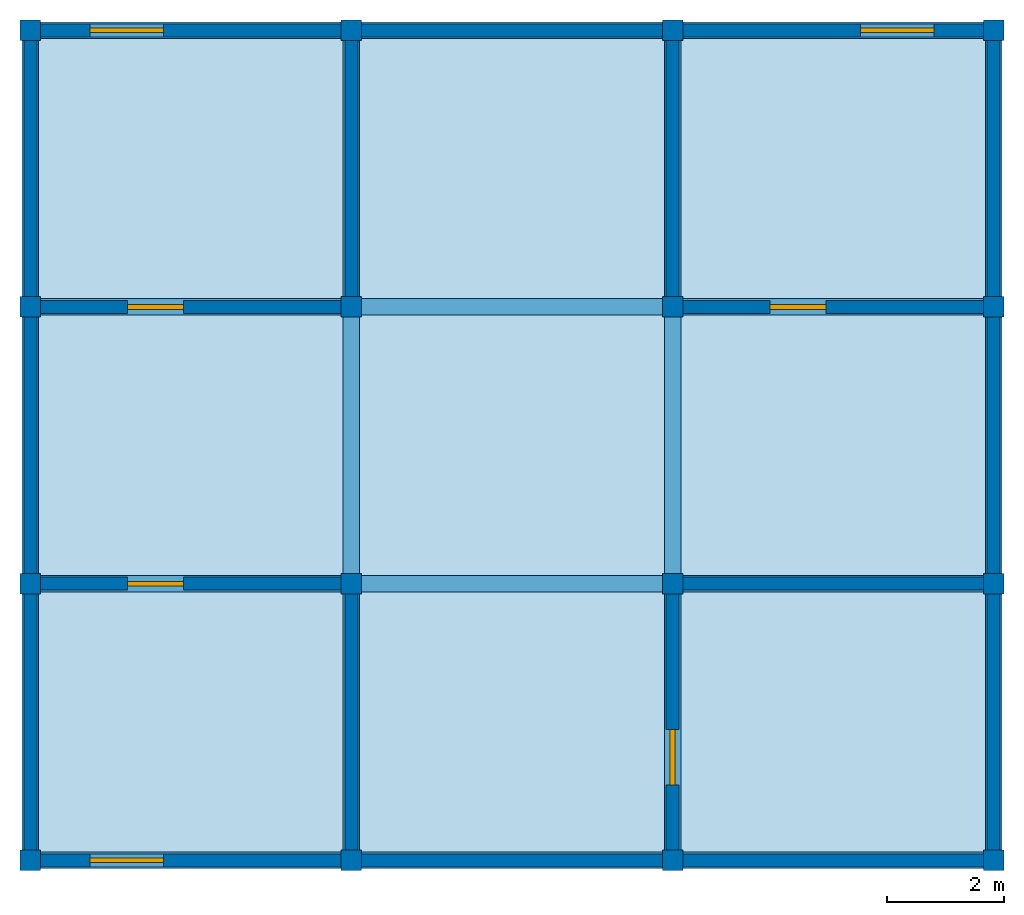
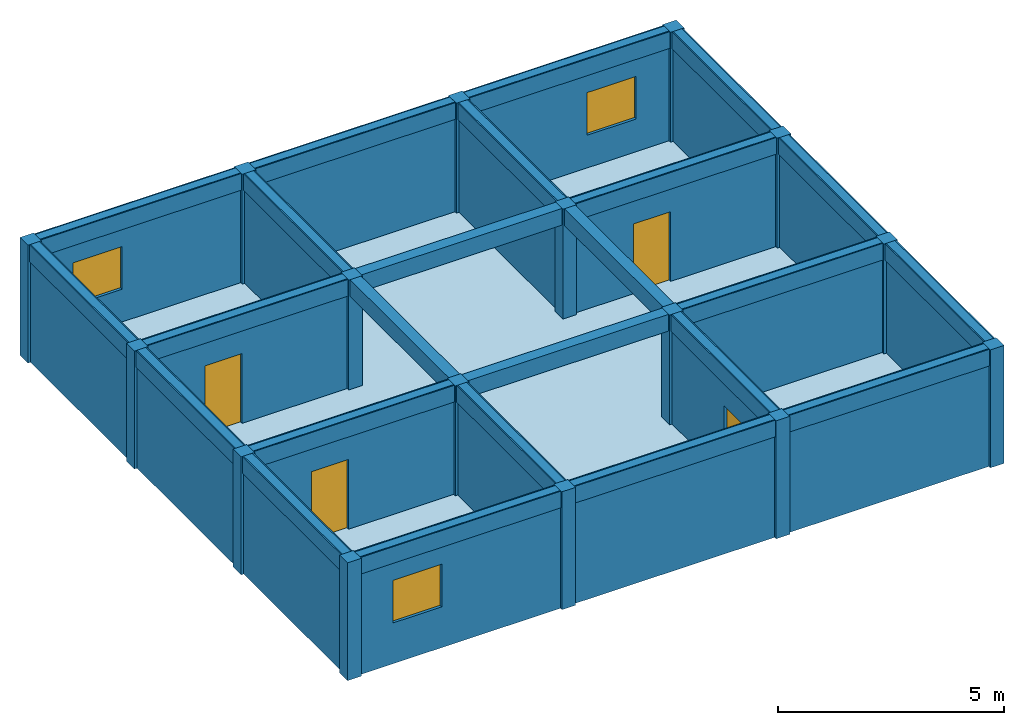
# One storey: 24 beams, 20 walls, 16 columns, 4 doors, 3 windows, 1 slab, 7 openings.
"""IFC4X3 building model written with IfcOpenShell, lengths in metres."""

from ifc_helpers import new_model, si_unit, frame, origin_with_axes, origin_2d, place, context, project, spatial, rectangle, extrude, material, element, fill, save


model = new_model("IFC4X3")

# Units and contexts
model_context = context("Model", 3, precision=1e-05, world=origin_with_axes())
ifc_project = project(units=[si_unit("LENGTHUNIT", "METRE"), si_unit("AREAUNIT", "SQUARE_METRE"), si_unit("VOLUMEUNIT", "CUBIC_METRE")], contexts=[model_context])

# Site, building, storey
site = spatial("IfcSite", under=ifc_project, Name="Antofagasta Parcel", CompositionType="ELEMENT")
building = spatial("IfcBuilding", under=site, Name="Nexo Block", CompositionType="ELEMENT")
storey = spatial("IfcBuildingStorey", under=building, Name="Level 3", CompositionType="ELEMENT", Elevation=6.36)

# Columns
ifc_material_1 = material(Name="Concrete")
column_1_placement = place(None, frame((-8.2, -7.065, 6.362), z_axis=(0.0, 0.0, 1.0), x_axis=(1.0, 0.0, 0.0)))
element("IfcColumn", 1, at=column_1_placement, inside=storey, material=ifc_material_1, Name="Column 3.1", ObjectType="Core Column", PredefinedType="NOTDEFINED", context=model_context, shape_type="SweptSolid", body=[
    extrude(rectangle(XDim=0.35, YDim=0.35, at=origin_2d()), origin_with_axes(), (0.0, 0.0, 1.0), 3.181),
])
column_2_placement = place(None, frame((-8.2, -2.355, 6.362), z_axis=(0.0, 0.0, 1.0), x_axis=(1.0, 0.0, 0.0)))
element("IfcColumn", 2, at=column_2_placement, inside=storey, material=ifc_material_1, Name="Column 3.2", ObjectType="Core Column", PredefinedType="COLUMN", context=model_context, shape_type="SweptSolid", body=[
    extrude(rectangle(XDim=0.35, YDim=0.35, at=origin_2d()), origin_with_axes(), (0.0, 0.0, 1.0), 3.181),
])
column_3_placement = place(None, frame((-8.2, 2.355, 6.362), z_axis=(0.0, 0.0, 1.0), x_axis=(1.0, 0.0, 0.0)))
element("IfcColumn", 3, at=column_3_placement, inside=storey, material=ifc_material_1, Name="Column 3.3", ObjectType="Facade Column", PredefinedType="PILASTER", context=model_context, shape_type="SweptSolid", body=[
    extrude(rectangle(XDim=0.35, YDim=0.35, at=origin_2d()), origin_with_axes(), (0.0, 0.0, 1.0), 3.181),
])
column_4_placement = place(None, frame((-8.2, 7.065, 6.362), z_axis=(0.0, 0.0, 1.0), x_axis=(1.0, 0.0, 0.0)))
element("IfcColumn", 4, at=column_4_placement, inside=storey, material=ifc_material_1, Name="Column 3.4", ObjectType="Core Column", PredefinedType="PILASTER", context=model_context, shape_type="SweptSolid", body=[
    extrude(rectangle(XDim=0.35, YDim=0.35, at=origin_2d()), origin_with_axes(), (0.0, 0.0, 1.0), 3.181),
])
column_5_placement = place(None, frame((-2.733, -7.065, 6.362), z_axis=(0.0, 0.0, 1.0), x_axis=(1.0, 0.0, 0.0)))
element("IfcColumn", 5, at=column_5_placement, inside=storey, material=ifc_material_1, Name="Column 3.5", ObjectType="Corner Column", PredefinedType="COLUMN", context=model_context, shape_type="SweptSolid", body=[
    extrude(rectangle(XDim=0.35, YDim=0.35, at=origin_2d()), origin_with_axes(), (0.0, 0.0, 1.0), 3.181),
])
column_6_placement = place(None, frame((-2.733, -2.355, 6.362), z_axis=(0.0, 0.0, 1.0), x_axis=(1.0, 0.0, 0.0)))
element("IfcColumn", 6, at=column_6_placement, inside=storey, material=ifc_material_1, Name="Column 3.6", ObjectType="Core Column", PredefinedType="COLUMN", context=model_context, shape_type="SweptSolid", body=[
    extrude(rectangle(XDim=0.35, YDim=0.35, at=origin_2d()), origin_with_axes(), (0.0, 0.0, 1.0), 3.181),
])
column_7_placement = place(None, frame((-2.733, 2.355, 6.362), z_axis=(0.0, 0.0, 1.0), x_axis=(1.0, 0.0, 0.0)))
element("IfcColumn", 7, at=column_7_placement, inside=storey, material=ifc_material_1, Name="Column 3.7", ObjectType="Structural Column", PredefinedType="USERDEFINED", context=model_context, shape_type="SweptSolid", body=[
    extrude(rectangle(XDim=0.35, YDim=0.35, at=origin_2d()), origin_with_axes(), (0.0, 0.0, 1.0), 3.181),
])
column_8_placement = place(None, frame((-2.733, 7.065, 6.362), z_axis=(0.0, 0.0, 1.0), x_axis=(1.0, 0.0, 0.0)))
element("IfcColumn", 8, at=column_8_placement, inside=storey, material=ifc_material_1, Name="Column 3.8", ObjectType="Structural Column", PredefinedType="PILASTER", context=model_context, shape_type="SweptSolid", body=[
    extrude(rectangle(XDim=0.35, YDim=0.35, at=origin_2d()), origin_with_axes(), (0.0, 0.0, 1.0), 3.181),
])
column_9_placement = place(None, frame((2.734, -7.065, 6.362), z_axis=(0.0, 0.0, 1.0), x_axis=(1.0, 0.0, 0.0)))
element("IfcColumn", 9, at=column_9_placement, inside=storey, material=ifc_material_1, Name="Column 3.9", ObjectType="Corner Column", PredefinedType="NOTDEFINED", context=model_context, shape_type="SweptSolid", body=[
    extrude(rectangle(XDim=0.35, YDim=0.35, at=origin_2d()), origin_with_axes(), (0.0, 0.0, 1.0), 3.181),
])
column_10_placement = place(None, frame((2.734, -2.355, 6.362), z_axis=(0.0, 0.0, 1.0), x_axis=(1.0, 0.0, 0.0)))
element("IfcColumn", 10, at=column_10_placement, inside=storey, material=ifc_material_1, Name="Column 3.10", ObjectType="Corner Column", PredefinedType="COLUMN", context=model_context, shape_type="SweptSolid", body=[
    extrude(rectangle(XDim=0.35, YDim=0.35, at=origin_2d()), origin_with_axes(), (0.0, 0.0, 1.0), 3.181),
])
column_11_placement = place(None, frame((2.734, 2.355, 6.362), z_axis=(0.0, 0.0, 1.0), x_axis=(1.0, 0.0, 0.0)))
element("IfcColumn", 11, at=column_11_placement, inside=storey, material=ifc_material_1, Name="Column 3.11", ObjectType="Core Column", PredefinedType="PILASTER", context=model_context, shape_type="SweptSolid", body=[
    extrude(rectangle(XDim=0.35, YDim=0.35, at=origin_2d()), origin_with_axes(), (0.0, 0.0, 1.0), 3.181),
])
column_12_placement = place(None, frame((2.734, 7.065, 6.362), z_axis=(0.0, 0.0, 1.0), x_axis=(1.0, 0.0, 0.0)))
element("IfcColumn", 12, at=column_12_placement, inside=storey, material=ifc_material_1, Name="Column 3.12", ObjectType="Facade Column", PredefinedType="NOTDEFINED", context=model_context, shape_type="SweptSolid", body=[
    extrude(rectangle(XDim=0.35, YDim=0.35, at=origin_2d()), origin_with_axes(), (0.0, 0.0, 1.0), 3.181),
])
column_13_placement = place(None, frame((8.201, -7.065, 6.362), z_axis=(0.0, 0.0, 1.0), x_axis=(1.0, 0.0, 0.0)))
element("IfcColumn", 13, at=column_13_placement, inside=storey, material=ifc_material_1, Name="Column 3.13", ObjectType="Corner Column", PredefinedType="PILASTER", context=model_context, shape_type="SweptSolid", body=[
    extrude(rectangle(XDim=0.35, YDim=0.35, at=origin_2d()), origin_with_axes(), (0.0, 0.0, 1.0), 3.181),
])
column_14_placement = place(None, frame((8.201, -2.355, 6.362), z_axis=(0.0, 0.0, 1.0), x_axis=(1.0, 0.0, 0.0)))
element("IfcColumn", 14, at=column_14_placement, inside=storey, material=ifc_material_1, Name="Column 3.14", ObjectType="Corner Column", PredefinedType="COLUMN", context=model_context, shape_type="SweptSolid", body=[
    extrude(rectangle(XDim=0.35, YDim=0.35, at=origin_2d()), origin_with_axes(), (0.0, 0.0, 1.0), 3.181),
])
column_15_placement = place(None, frame((8.201, 2.355, 6.362), z_axis=(0.0, 0.0, 1.0), x_axis=(1.0, 0.0, 0.0)))
element("IfcColumn", 15, at=column_15_placement, inside=storey, material=ifc_material_1, Name="Column 3.15", ObjectType="Facade Column", PredefinedType="USERDEFINED", context=model_context, shape_type="SweptSolid", body=[
    extrude(rectangle(XDim=0.35, YDim=0.35, at=origin_2d()), origin_with_axes(), (0.0, 0.0, 1.0), 3.181),
])
column_16_placement = place(None, frame((8.201, 7.065, 6.362), z_axis=(0.0, 0.0, 1.0), x_axis=(1.0, 0.0, 0.0)))
element("IfcColumn", 16, at=column_16_placement, inside=storey, material=ifc_material_1, Name="Column 3.16", ObjectType="Structural Column", PredefinedType="PILASTER", context=model_context, shape_type="SweptSolid", body=[
    extrude(rectangle(XDim=0.35, YDim=0.35, at=origin_2d()), origin_with_axes(), (0.0, 0.0, 1.0), 3.181),
])

# Beams
beam_1_placement = place(None, frame((-5.466, -7.065, 9.093), z_axis=(0.0, 0.0, 1.0), x_axis=(1.0, 0.0, 0.0)))
element("IfcBeam", 17, at=beam_1_placement, inside=storey, material=ifc_material_1, Name="Beam 3.1", ObjectType="Ridge Beam", PredefinedType="JOIST", context=model_context, shape_type="SweptSolid", body=[
    extrude(rectangle(XDim=5.467, YDim=0.28, at=origin_2d()), origin_with_axes(), (0.0, 0.0, 1.0), 0.45),
])
beam_2_placement = place(None, frame((0.0, -7.065, 9.093), z_axis=(0.0, 0.0, 1.0), x_axis=(1.0, 0.0, 0.0)))
element("IfcBeam", 18, at=beam_2_placement, inside=storey, material=ifc_material_1, Name="Beam 3.2", ObjectType="Ridge Beam", PredefinedType="SPANDREL", context=model_context, shape_type="SweptSolid", body=[
    extrude(rectangle(XDim=5.467, YDim=0.28, at=origin_2d()), origin_with_axes(), (0.0, 0.0, 1.0), 0.45),
])
beam_3_placement = place(None, frame((5.468, -7.065, 9.093), z_axis=(0.0, 0.0, 1.0), x_axis=(1.0, 0.0, 0.0)))
element("IfcBeam", 19, at=beam_3_placement, inside=storey, material=ifc_material_1, Name="Beam 3.3", ObjectType="Transfer Beam", PredefinedType="BEAM", context=model_context, shape_type="SweptSolid", body=[
    extrude(rectangle(XDim=5.467, YDim=0.28, at=origin_2d()), origin_with_axes(), (0.0, 0.0, 1.0), 0.45),
])
beam_4_placement = place(None, frame((-5.466, -2.355, 9.093), z_axis=(0.0, 0.0, 1.0), x_axis=(1.0, 0.0, 0.0)))
element("IfcBeam", 20, at=beam_4_placement, inside=storey, material=ifc_material_1, Name="Beam 3.4", ObjectType="Ridge Beam", PredefinedType="SPANDREL", context=model_context, shape_type="SweptSolid", body=[
    extrude(rectangle(XDim=5.467, YDim=0.28, at=origin_2d()), origin_with_axes(), (0.0, 0.0, 1.0), 0.45),
])
beam_5_placement = place(None, frame((0.0, -2.355, 9.093), z_axis=(0.0, 0.0, 1.0), x_axis=(1.0, 0.0, 0.0)))
element("IfcBeam", 21, at=beam_5_placement, inside=storey, material=ifc_material_1, Name="Beam 3.5", ObjectType="Primary Beam", PredefinedType="NOTDEFINED", context=model_context, shape_type="SweptSolid", body=[
    extrude(rectangle(XDim=5.467, YDim=0.28, at=origin_2d()), origin_with_axes(), (0.0, 0.0, 1.0), 0.45),
])
beam_6_placement = place(None, frame((5.468, -2.355, 9.093), z_axis=(0.0, 0.0, 1.0), x_axis=(1.0, 0.0, 0.0)))
element("IfcBeam", 22, at=beam_6_placement, inside=storey, material=ifc_material_1, Name="Beam 3.6", ObjectType="Ridge Beam", PredefinedType="BEAM", context=model_context, shape_type="SweptSolid", body=[
    extrude(rectangle(XDim=5.467, YDim=0.28, at=origin_2d()), origin_with_axes(), (0.0, 0.0, 1.0), 0.45),
])
beam_7_placement = place(None, frame((-5.466, 2.355, 9.093), z_axis=(0.0, 0.0, 1.0), x_axis=(1.0, 0.0, 0.0)))
element("IfcBeam", 23, at=beam_7_placement, inside=storey, material=ifc_material_1, Name="Beam 3.7", ObjectType="Secondary Beam", PredefinedType="BEAM", context=model_context, shape_type="SweptSolid", body=[
    extrude(rectangle(XDim=5.467, YDim=0.28, at=origin_2d()), origin_with_axes(), (0.0, 0.0, 1.0), 0.45),
])
beam_8_placement = place(None, frame((0.0, 2.355, 9.093), z_axis=(0.0, 0.0, 1.0), x_axis=(1.0, 0.0, 0.0)))
element("IfcBeam", 24, at=beam_8_placement, inside=storey, material=ifc_material_1, Name="Beam 3.8", ObjectType="Primary Beam", PredefinedType="USERDEFINED", context=model_context, shape_type="SweptSolid", body=[
    extrude(rectangle(XDim=5.467, YDim=0.28, at=origin_2d()), origin_with_axes(), (0.0, 0.0, 1.0), 0.45),
])
beam_9_placement = place(None, frame((5.468, 2.355, 9.093), z_axis=(0.0, 0.0, 1.0), x_axis=(1.0, 0.0, 0.0)))
element("IfcBeam", 25, at=beam_9_placement, inside=storey, material=ifc_material_1, Name="Beam 3.9", ObjectType="Secondary Beam", PredefinedType="HOLLOWCORE", context=model_context, shape_type="SweptSolid", body=[
    extrude(rectangle(XDim=5.467, YDim=0.28, at=origin_2d()), origin_with_axes(), (0.0, 0.0, 1.0), 0.45),
])
beam_10_placement = place(None, frame((-5.466, 7.065, 9.093), z_axis=(0.0, 0.0, 1.0), x_axis=(1.0, 0.0, 0.0)))
element("IfcBeam", 26, at=beam_10_placement, inside=storey, material=ifc_material_1, Name="Beam 3.10", ObjectType="Rafter Beam", PredefinedType="USERDEFINED", context=model_context, shape_type="SweptSolid", body=[
    extrude(rectangle(XDim=5.467, YDim=0.28, at=origin_2d()), origin_with_axes(), (0.0, 0.0, 1.0), 0.45),
])
beam_11_placement = place(None, frame((0.0, 7.065, 9.093), z_axis=(0.0, 0.0, 1.0), x_axis=(1.0, 0.0, 0.0)))
element("IfcBeam", 27, at=beam_11_placement, inside=storey, material=ifc_material_1, Name="Beam 3.11", ObjectType="Primary Beam", PredefinedType="BEAM", context=model_context, shape_type="SweptSolid", body=[
    extrude(rectangle(XDim=5.467, YDim=0.28, at=origin_2d()), origin_with_axes(), (0.0, 0.0, 1.0), 0.45),
])
beam_12_placement = place(None, frame((5.468, 7.065, 9.093), z_axis=(0.0, 0.0, 1.0), x_axis=(1.0, 0.0, 0.0)))
element("IfcBeam", 28, at=beam_12_placement, inside=storey, material=ifc_material_1, Name="Beam 3.12", ObjectType="Secondary Beam", PredefinedType="T_BEAM", context=model_context, shape_type="SweptSolid", body=[
    extrude(rectangle(XDim=5.467, YDim=0.28, at=origin_2d()), origin_with_axes(), (0.0, 0.0, 1.0), 0.45),
])
beam_13_placement = place(None, frame((-8.2, -4.71, 9.093), z_axis=(0.0, 0.0, 1.0), x_axis=(0.0, 1.0, 0.0)))
element("IfcBeam", 29, at=beam_13_placement, inside=storey, material=ifc_material_1, Name="Beam 3.13", ObjectType="Ridge Beam", PredefinedType="NOTDEFINED", context=model_context, shape_type="SweptSolid", body=[
    extrude(rectangle(XDim=4.71, YDim=0.28, at=origin_2d()), origin_with_axes(), (0.0, 0.0, 1.0), 0.45),
])
beam_14_placement = place(None, frame((-8.2, 0.0, 9.093), z_axis=(0.0, 0.0, 1.0), x_axis=(0.0, 1.0, 0.0)))
element("IfcBeam", 30, at=beam_14_placement, inside=storey, material=ifc_material_1, Name="Beam 3.14", ObjectType="Rafter Beam", PredefinedType="BEAM", context=model_context, shape_type="SweptSolid", body=[
    extrude(rectangle(XDim=4.71, YDim=0.28, at=origin_2d()), origin_with_axes(), (0.0, 0.0, 1.0), 0.45),
])
beam_15_placement = place(None, frame((-8.2, 4.71, 9.093), z_axis=(0.0, 0.0, 1.0), x_axis=(0.0, 1.0, 0.0)))
element("IfcBeam", 31, at=beam_15_placement, inside=storey, material=ifc_material_1, Name="Beam 3.15", ObjectType="Ridge Beam", PredefinedType="NOTDEFINED", context=model_context, shape_type="SweptSolid", body=[
    extrude(rectangle(XDim=4.71, YDim=0.28, at=origin_2d()), origin_with_axes(), (0.0, 0.0, 1.0), 0.45),
])
beam_16_placement = place(None, frame((-2.733, -4.71, 9.093), z_axis=(0.0, 0.0, 1.0), x_axis=(0.0, 1.0, 0.0)))
element("IfcBeam", 32, at=beam_16_placement, inside=storey, material=ifc_material_1, Name="Beam 3.16", ObjectType="Rafter Beam", PredefinedType="BEAM", context=model_context, shape_type="SweptSolid", body=[
    extrude(rectangle(XDim=4.71, YDim=0.28, at=origin_2d()), origin_with_axes(), (0.0, 0.0, 1.0), 0.45),
])
beam_17_placement = place(None, frame((-2.733, 0.0, 9.093), z_axis=(0.0, 0.0, 1.0), x_axis=(0.0, 1.0, 0.0)))
element("IfcBeam", 33, at=beam_17_placement, inside=storey, material=ifc_material_1, Name="Beam 3.17", ObjectType="Transfer Beam", PredefinedType="JOIST", context=model_context, shape_type="SweptSolid", body=[
    extrude(rectangle(XDim=4.71, YDim=0.28, at=origin_2d()), origin_with_axes(), (0.0, 0.0, 1.0), 0.45),
])
beam_18_placement = place(None, frame((-2.733, 4.71, 9.093), z_axis=(0.0, 0.0, 1.0), x_axis=(0.0, 1.0, 0.0)))
element("IfcBeam", 34, at=beam_18_placement, inside=storey, material=ifc_material_1, Name="Beam 3.18", ObjectType="Secondary Beam", PredefinedType="JOIST", context=model_context, shape_type="SweptSolid", body=[
    extrude(rectangle(XDim=4.71, YDim=0.28, at=origin_2d()), origin_with_axes(), (0.0, 0.0, 1.0), 0.45),
])
beam_19_placement = place(None, frame((2.734, -4.71, 9.093), z_axis=(0.0, 0.0, 1.0), x_axis=(0.0, 1.0, 0.0)))
element("IfcBeam", 35, at=beam_19_placement, inside=storey, material=ifc_material_1, Name="Beam 3.19", ObjectType="Transfer Beam", PredefinedType="SPANDREL", context=model_context, shape_type="SweptSolid", body=[
    extrude(rectangle(XDim=4.71, YDim=0.28, at=origin_2d()), origin_with_axes(), (0.0, 0.0, 1.0), 0.45),
])
beam_20_placement = place(None, frame((2.734, 0.0, 9.093), z_axis=(0.0, 0.0, 1.0), x_axis=(0.0, 1.0, 0.0)))
element("IfcBeam", 36, at=beam_20_placement, inside=storey, material=ifc_material_1, Name="Beam 3.20", ObjectType="Rafter Beam", PredefinedType="JOIST", context=model_context, shape_type="SweptSolid", body=[
    extrude(rectangle(XDim=4.71, YDim=0.28, at=origin_2d()), origin_with_axes(), (0.0, 0.0, 1.0), 0.45),
])
beam_21_placement = place(None, frame((2.734, 4.71, 9.093), z_axis=(0.0, 0.0, 1.0), x_axis=(0.0, 1.0, 0.0)))
element("IfcBeam", 37, at=beam_21_placement, inside=storey, material=ifc_material_1, Name="Beam 3.21", ObjectType="Ridge Beam", PredefinedType="LINTEL", context=model_context, shape_type="SweptSolid", body=[
    extrude(rectangle(XDim=4.71, YDim=0.28, at=origin_2d()), origin_with_axes(), (0.0, 0.0, 1.0), 0.45),
])
beam_22_placement = place(None, frame((8.201, -4.71, 9.093), z_axis=(0.0, 0.0, 1.0), x_axis=(0.0, 1.0, 0.0)))
element("IfcBeam", 38, at=beam_22_placement, inside=storey, material=ifc_material_1, Name="Beam 3.22", ObjectType="Ridge Beam", PredefinedType="NOTDEFINED", context=model_context, shape_type="SweptSolid", body=[
    extrude(rectangle(XDim=4.71, YDim=0.28, at=origin_2d()), origin_with_axes(), (0.0, 0.0, 1.0), 0.45),
])
beam_23_placement = place(None, frame((8.201, 0.0, 9.093), z_axis=(0.0, 0.0, 1.0), x_axis=(0.0, 1.0, 0.0)))
element("IfcBeam", 39, at=beam_23_placement, inside=storey, material=ifc_material_1, Name="Beam 3.23", ObjectType="Transfer Beam", PredefinedType="USERDEFINED", context=model_context, shape_type="SweptSolid", body=[
    extrude(rectangle(XDim=4.71, YDim=0.28, at=origin_2d()), origin_with_axes(), (0.0, 0.0, 1.0), 0.45),
])
beam_24_placement = place(None, frame((8.201, 4.71, 9.093), z_axis=(0.0, 0.0, 1.0), x_axis=(0.0, 1.0, 0.0)))
element("IfcBeam", 40, at=beam_24_placement, inside=storey, material=ifc_material_1, Name="Beam 3.24", ObjectType="Rafter Beam", PredefinedType="HOLLOWCORE", context=model_context, shape_type="SweptSolid", body=[
    extrude(rectangle(XDim=4.71, YDim=0.28, at=origin_2d()), origin_with_axes(), (0.0, 0.0, 1.0), 0.45),
])

# Slab
ifc_material_2 = material(Name="Timber")
slab_placement = place(None, frame((0.0, 0.0, 6.36), z_axis=(0.0, 0.0, 1.0), x_axis=(1.0, 0.0, 0.0)))
element("IfcSlab", 41, at=slab_placement, inside=storey, material=ifc_material_2, Name="Slab 3", ObjectType="Floor Slab", PredefinedType="FLOOR", context=model_context, shape_type="SweptSolid", body=[
    extrude(rectangle(XDim=16.4, YDim=14.13, at=origin_2d()), origin_with_axes(), (0.0, 0.0, 1.0), 0.22),
])

# Wall, opening, door
wall_1_placement = place(None, frame((-5.466, -2.355, 6.362), z_axis=(0.0, 0.0, 1.0), x_axis=(1.0, 0.0, 0.0)))
wall_1 = element("IfcWall", 42, at=wall_1_placement, inside=storey, material=ifc_material_1, Name="Wall 3.1", ObjectType="Corridor Partition", PredefinedType="PLUMBINGWALL", context=model_context, shape_type="SweptSolid", body=[
    extrude(rectangle(XDim=5.467, YDim=0.220316, at=origin_2d()), origin_with_axes(), (0.0, 0.0, 1.0), 3.181),
])
opening_1_placement = place(None, frame((-6.066, -2.355, 6.362), z_axis=(0.0, 0.0, 1.0), x_axis=(1.0, 0.0, 0.0)))
opening_1 = element("IfcOpeningElement", 43, at=opening_1_placement, cuts=wall_1, Name="Door opening 3.1", ObjectType="Door Opening", PredefinedType="OPENING", context=model_context, shape_type="SweptSolid", body=[
    extrude(rectangle(XDim=0.95, YDim=0.300316, at=origin_2d()), origin_with_axes(), (0.0, 0.0, 1.0), 2.1),
])
door_1_placement = place(None, frame((-6.066, -2.355, 6.362), z_axis=(0.0, 0.0, 1.0), x_axis=(1.0, 0.0, 0.0)))
door_1 = element("IfcDoor", 44, at=door_1_placement, inside=storey, Name="Door 3.1", ObjectType="Entry Door", OverallHeight=2.1, OverallWidth=0.95, context=model_context, shape_type="SweptSolid", body=[
    extrude(rectangle(XDim=0.95, YDim=0.08, at=origin_2d()), origin_with_axes(), (0.0, 0.0, 1.0), 2.1),
])
fill(opening_1, door_1)

# Wall
ifc_material_3 = material(Name="Gypsum")
wall_2_placement = place(None, frame((-2.7325, -4.71, 6.362), z_axis=(0.0, 0.0, 1.0), x_axis=(0.0, 1.0, 0.0)))
element("IfcWall", 45, at=wall_2_placement, inside=storey, material=ifc_material_3, Name="Wall 3.2", ObjectType="Corridor Partition", PredefinedType="POLYGONAL", context=model_context, shape_type="SweptSolid", body=[
    extrude(rectangle(XDim=4.71, YDim=0.220316, at=origin_2d()), origin_with_axes(), (0.0, 0.0, 1.0), 3.181),
])

# Wall, opening, window
ifc_material_4 = material(Name="Brick")
wall_3_placement = place(None, frame((-5.466, -7.065, 6.362), z_axis=(0.0, 0.0, 1.0), x_axis=(1.0, 0.0, 0.0)))
wall_3 = element("IfcWall", 46, at=wall_3_placement, inside=storey, material=ifc_material_4, Name="Wall 3.3", ObjectType="Exterior Wall", PredefinedType="ELEMENTEDWALL", context=model_context, shape_type="SweptSolid", body=[
    extrude(rectangle(XDim=5.467, YDim=0.220316, at=origin_2d()), origin_with_axes(), (0.0, 0.0, 1.0), 3.181),
])
opening_2_placement = place(None, frame((-6.559, -7.065, 7.462), z_axis=(0.0, 0.0, 1.0), x_axis=(1.0, 0.0, 0.0)))
opening_2 = element("IfcOpeningElement", 47, at=opening_2_placement, cuts=wall_3, Name="Window opening 3.2", ObjectType="Window Opening", PredefinedType="OPENING", context=model_context, shape_type="SweptSolid", body=[
    extrude(rectangle(XDim=1.25, YDim=0.300316, at=origin_2d()), origin_with_axes(), (0.0, 0.0, 1.0), 1.15),
])
window_1_placement = place(None, frame((-6.559, -7.065, 7.462), z_axis=(0.0, 0.0, 1.0), x_axis=(1.0, 0.0, 0.0)))
window_1 = element("IfcWindow", 48, at=window_1_placement, inside=storey, Name="Window 3.2", ObjectType="Fixed Window", OverallHeight=1.15, OverallWidth=1.25, context=model_context, shape_type="SweptSolid", body=[
    extrude(rectangle(XDim=1.25, YDim=0.08, at=origin_2d()), origin_with_axes(), (0.0, 0.0, 1.0), 1.15),
])
fill(opening_2, window_1)

# Wall
wall_4_placement = place(None, frame((-8.1995, -4.71, 6.362), z_axis=(0.0, 0.0, 1.0), x_axis=(0.0, 1.0, 0.0)))
element("IfcWall", 49, at=wall_4_placement, inside=storey, material=ifc_material_1, Name="Wall 3.4", ObjectType="Exterior Wall", PredefinedType="PLUMBINGWALL", context=model_context, shape_type="SweptSolid", body=[
    extrude(rectangle(XDim=4.71, YDim=0.220316, at=origin_2d()), origin_with_axes(), (0.0, 0.0, 1.0), 3.181),
])

# Wall, opening, door
ifc_material_5 = material(Name="CLT")
wall_5_placement = place(None, frame((2.7335, -4.71, 6.362), z_axis=(0.0, 0.0, 1.0), x_axis=(0.0, 1.0, 0.0)))
wall_5 = element("IfcWall", 50, at=wall_5_placement, inside=storey, material=ifc_material_5, Name="Wall 3.5", ObjectType="Corridor Partition", PredefinedType="PARAPET", context=model_context, shape_type="SweptSolid", body=[
    extrude(rectangle(XDim=4.71, YDim=0.220316, at=origin_2d()), origin_with_axes(), (0.0, 0.0, 1.0), 3.181),
])
opening_3_placement = place(None, frame((2.733, -5.31, 6.362), z_axis=(0.0, 0.0, 1.0), x_axis=(0.0, 1.0, 0.0)))
opening_3 = element("IfcOpeningElement", 51, at=opening_3_placement, cuts=wall_5, Name="Door opening 3.3", ObjectType="Door Opening", PredefinedType="OPENING", context=model_context, shape_type="SweptSolid", body=[
    extrude(rectangle(XDim=0.95, YDim=0.300316, at=origin_2d()), origin_with_axes(), (0.0, 0.0, 1.0), 2.1),
])
door_2_placement = place(None, frame((2.733, -5.31, 6.362), z_axis=(0.0, 0.0, 1.0), x_axis=(0.0, 1.0, 0.0)))
door_2 = element("IfcDoor", 52, at=door_2_placement, inside=storey, Name="Door 3.3", ObjectType="Fire Door", OverallHeight=2.1, OverallWidth=0.95, context=model_context, shape_type="SweptSolid", body=[
    extrude(rectangle(XDim=0.95, YDim=0.08, at=origin_2d()), origin_with_axes(), (0.0, 0.0, 1.0), 2.1),
])
fill(opening_3, door_2)

# Walls
wall_6_placement = place(None, frame((0.0, -7.065, 6.362), z_axis=(0.0, 0.0, 1.0), x_axis=(1.0, 0.0, 0.0)))
element("IfcWall", 53, at=wall_6_placement, inside=storey, material=ifc_material_1, Name="Wall 3.6", ObjectType="Exterior Wall", PredefinedType="STANDARD", context=model_context, shape_type="SweptSolid", body=[
    extrude(rectangle(XDim=5.467, YDim=0.220316, at=origin_2d()), origin_with_axes(), (0.0, 0.0, 1.0), 3.181),
])
wall_7_placement = place(None, frame((5.467, -2.355, 6.362), z_axis=(0.0, 0.0, 1.0), x_axis=(1.0, 0.0, 0.0)))
element("IfcWall", 54, at=wall_7_placement, inside=storey, material=ifc_material_5, Name="Wall 3.7", ObjectType="Corridor Partition", PredefinedType="MOVABLE", context=model_context, shape_type="SweptSolid", body=[
    extrude(rectangle(XDim=5.467, YDim=0.220316, at=origin_2d()), origin_with_axes(), (0.0, 0.0, 1.0), 3.181),
])
wall_8_placement = place(None, frame((8.2005, -4.71, 6.362), z_axis=(0.0, 0.0, 1.0), x_axis=(0.0, 1.0, 0.0)))
element("IfcWall", 55, at=wall_8_placement, inside=storey, material=ifc_material_4, Name="Wall 3.8", ObjectType="Exterior Wall", PredefinedType="STANDARD", context=model_context, shape_type="SweptSolid", body=[
    extrude(rectangle(XDim=4.71, YDim=0.220316, at=origin_2d()), origin_with_axes(), (0.0, 0.0, 1.0), 3.181),
])
wall_9_placement = place(None, frame((5.467, -7.065, 6.362), z_axis=(0.0, 0.0, 1.0), x_axis=(1.0, 0.0, 0.0)))
element("IfcWall", 56, at=wall_9_placement, inside=storey, material=ifc_material_3, Name="Wall 3.9", ObjectType="Exterior Wall", PredefinedType="PLUMBINGWALL", context=model_context, shape_type="SweptSolid", body=[
    extrude(rectangle(XDim=5.467, YDim=0.220316, at=origin_2d()), origin_with_axes(), (0.0, 0.0, 1.0), 3.181),
])

# Wall, opening, door
wall_10_placement = place(None, frame((-5.466, 2.355, 6.362), z_axis=(0.0, 0.0, 1.0), x_axis=(1.0, 0.0, 0.0)))
wall_10 = element("IfcWall", 57, at=wall_10_placement, inside=storey, material=ifc_material_1, Name="Wall 3.10", ObjectType="Corridor Partition", PredefinedType="MOVABLE", context=model_context, shape_type="SweptSolid", body=[
    extrude(rectangle(XDim=5.467, YDim=0.220316, at=origin_2d()), origin_with_axes(), (0.0, 0.0, 1.0), 3.181),
])
opening_4_placement = place(None, frame((-6.066, 2.355, 6.362), z_axis=(0.0, 0.0, 1.0), x_axis=(1.0, 0.0, 0.0)))
opening_4 = element("IfcOpeningElement", 58, at=opening_4_placement, cuts=wall_10, Name="Door opening 3.4", ObjectType="Door Opening", PredefinedType="OPENING", context=model_context, shape_type="SweptSolid", body=[
    extrude(rectangle(XDim=0.95, YDim=0.300316, at=origin_2d()), origin_with_axes(), (0.0, 0.0, 1.0), 2.1),
])
door_3_placement = place(None, frame((-6.066, 2.355, 6.362), z_axis=(0.0, 0.0, 1.0), x_axis=(1.0, 0.0, 0.0)))
door_3 = element("IfcDoor", 59, at=door_3_placement, inside=storey, Name="Door 3.4", ObjectType="Fire Door", OverallHeight=2.1, OverallWidth=0.95, context=model_context, shape_type="SweptSolid", body=[
    extrude(rectangle(XDim=0.95, YDim=0.08, at=origin_2d()), origin_with_axes(), (0.0, 0.0, 1.0), 2.1),
])
fill(opening_4, door_3)

# Wall
wall_11_placement = place(None, frame((-8.1995, 0.0, 6.362), z_axis=(0.0, 0.0, 1.0), x_axis=(0.0, 1.0, 0.0)))
element("IfcWall", 60, at=wall_11_placement, inside=storey, material=ifc_material_5, Name="Wall 3.11", ObjectType="Exterior Wall", PredefinedType="NOTDEFINED", context=model_context, shape_type="SweptSolid", body=[
    extrude(rectangle(XDim=4.71, YDim=0.220316, at=origin_2d()), origin_with_axes(), (0.0, 0.0, 1.0), 3.181),
])

# Wall, opening, door
wall_12_placement = place(None, frame((5.467, 2.355, 6.362), z_axis=(0.0, 0.0, 1.0), x_axis=(1.0, 0.0, 0.0)))
wall_12 = element("IfcWall", 61, at=wall_12_placement, inside=storey, material=ifc_material_3, Name="Wall 3.12", ObjectType="Corridor Partition", PredefinedType="MOVABLE", context=model_context, shape_type="SweptSolid", body=[
    extrude(rectangle(XDim=5.467, YDim=0.220316, at=origin_2d()), origin_with_axes(), (0.0, 0.0, 1.0), 3.181),
])
opening_5_placement = place(None, frame((4.867, 2.355, 6.362), z_axis=(0.0, 0.0, 1.0), x_axis=(1.0, 0.0, 0.0)))
opening_5 = element("IfcOpeningElement", 62, at=opening_5_placement, cuts=wall_12, Name="Door opening 3.6", ObjectType="Door Opening", PredefinedType="OPENING", context=model_context, shape_type="SweptSolid", body=[
    extrude(rectangle(XDim=0.95, YDim=0.300316, at=origin_2d()), origin_with_axes(), (0.0, 0.0, 1.0), 2.1),
])
door_4_placement = place(None, frame((4.867, 2.355, 6.362), z_axis=(0.0, 0.0, 1.0), x_axis=(1.0, 0.0, 0.0)))
door_4 = element("IfcDoor", 63, at=door_4_placement, inside=storey, Name="Door 3.6", ObjectType="Entry Door", OverallHeight=2.1, OverallWidth=0.95, context=model_context, shape_type="SweptSolid", body=[
    extrude(rectangle(XDim=0.95, YDim=0.08, at=origin_2d()), origin_with_axes(), (0.0, 0.0, 1.0), 2.1),
])
fill(opening_5, door_4)

# Wall
wall_13_placement = place(None, frame((8.2005, 0.0, 6.362), z_axis=(0.0, 0.0, 1.0), x_axis=(0.0, 1.0, 0.0)))
element("IfcWall", 64, at=wall_13_placement, inside=storey, material=ifc_material_1, Name="Wall 3.13", ObjectType="Exterior Wall", PredefinedType="PARTITIONING", context=model_context, shape_type="SweptSolid", body=[
    extrude(rectangle(XDim=4.71, YDim=0.220316, at=origin_2d()), origin_with_axes(), (0.0, 0.0, 1.0), 3.181),
])

# Wall, opening, window
wall_14_placement = place(None, frame((-5.466, 7.065, 6.362), z_axis=(0.0, 0.0, 1.0), x_axis=(1.0, 0.0, 0.0)))
wall_14 = element("IfcWall", 65, at=wall_14_placement, inside=storey, material=ifc_material_1, Name="Wall 3.14", ObjectType="Exterior Wall", PredefinedType="POLYGONAL", context=model_context, shape_type="SweptSolid", body=[
    extrude(rectangle(XDim=5.467, YDim=0.220316, at=origin_2d()), origin_with_axes(), (0.0, 0.0, 1.0), 3.181),
])
opening_6_placement = place(None, frame((-6.559, 7.065, 7.462), z_axis=(0.0, 0.0, 1.0), x_axis=(1.0, 0.0, 0.0)))
opening_6 = element("IfcOpeningElement", 66, at=opening_6_placement, cuts=wall_14, Name="Window opening 3.5", ObjectType="Window Opening", PredefinedType="OPENING", context=model_context, shape_type="SweptSolid", body=[
    extrude(rectangle(XDim=1.25, YDim=0.300316, at=origin_2d()), origin_with_axes(), (0.0, 0.0, 1.0), 1.15),
])
window_2_placement = place(None, frame((-6.559, 7.065, 7.462), z_axis=(0.0, 0.0, 1.0), x_axis=(1.0, 0.0, 0.0)))
window_2 = element("IfcWindow", 67, at=window_2_placement, inside=storey, Name="Window 3.5", ObjectType="Operable Window", OverallHeight=1.15, OverallWidth=1.25, context=model_context, shape_type="SweptSolid", body=[
    extrude(rectangle(XDim=1.25, YDim=0.08, at=origin_2d()), origin_with_axes(), (0.0, 0.0, 1.0), 1.15),
])
fill(opening_6, window_2)

# Walls
wall_15_placement = place(None, frame((-2.7325, 4.71, 6.362), z_axis=(0.0, 0.0, 1.0), x_axis=(0.0, 1.0, 0.0)))
element("IfcWall", 68, at=wall_15_placement, inside=storey, material=ifc_material_3, Name="Wall 3.15", ObjectType="Corridor Partition", PredefinedType="SHEAR", context=model_context, shape_type="SweptSolid", body=[
    extrude(rectangle(XDim=4.71, YDim=0.220316, at=origin_2d()), origin_with_axes(), (0.0, 0.0, 1.0), 3.181),
])
wall_16_placement = place(None, frame((-8.1995, 4.71, 6.362), z_axis=(0.0, 0.0, 1.0), x_axis=(0.0, 1.0, 0.0)))
element("IfcWall", 69, at=wall_16_placement, inside=storey, material=ifc_material_3, Name="Wall 3.16", ObjectType="Exterior Wall", PredefinedType="PLUMBINGWALL", context=model_context, shape_type="SweptSolid", body=[
    extrude(rectangle(XDim=4.71, YDim=0.220316, at=origin_2d()), origin_with_axes(), (0.0, 0.0, 1.0), 3.181),
])
wall_17_placement = place(None, frame((0.0, 7.065, 6.362), z_axis=(0.0, 0.0, 1.0), x_axis=(1.0, 0.0, 0.0)))
element("IfcWall", 70, at=wall_17_placement, inside=storey, material=ifc_material_4, Name="Wall 3.17", ObjectType="Exterior Wall", PredefinedType="POLYGONAL", context=model_context, shape_type="SweptSolid", body=[
    extrude(rectangle(XDim=5.467, YDim=0.220316, at=origin_2d()), origin_with_axes(), (0.0, 0.0, 1.0), 3.181),
])
wall_18_placement = place(None, frame((2.7335, 4.71, 6.362), z_axis=(0.0, 0.0, 1.0), x_axis=(0.0, 1.0, 0.0)))
element("IfcWall", 71, at=wall_18_placement, inside=storey, material=ifc_material_4, Name="Wall 3.18", ObjectType="Corridor Partition", PredefinedType="PARTITIONING", context=model_context, shape_type="SweptSolid", body=[
    extrude(rectangle(XDim=4.71, YDim=0.220316, at=origin_2d()), origin_with_axes(), (0.0, 0.0, 1.0), 3.181),
])

# Wall, opening, window
wall_19_placement = place(None, frame((5.467, 7.065, 6.362), z_axis=(0.0, 0.0, 1.0), x_axis=(1.0, 0.0, 0.0)))
wall_19 = element("IfcWall", 72, at=wall_19_placement, inside=storey, material=ifc_material_3, Name="Wall 3.19", ObjectType="Exterior Wall", PredefinedType="STANDARD", context=model_context, shape_type="SweptSolid", body=[
    extrude(rectangle(XDim=5.467, YDim=0.220316, at=origin_2d()), origin_with_axes(), (0.0, 0.0, 1.0), 3.181),
])
opening_7_placement = place(None, frame((6.56, 7.065, 7.462), z_axis=(0.0, 0.0, 1.0), x_axis=(1.0, 0.0, 0.0)))
opening_7 = element("IfcOpeningElement", 73, at=opening_7_placement, cuts=wall_19, Name="Window opening 3.7", ObjectType="Window Opening", PredefinedType="OPENING", context=model_context, shape_type="SweptSolid", body=[
    extrude(rectangle(XDim=1.25, YDim=0.300316, at=origin_2d()), origin_with_axes(), (0.0, 0.0, 1.0), 1.15),
])
window_3_placement = place(None, frame((6.56, 7.065, 7.462), z_axis=(0.0, 0.0, 1.0), x_axis=(1.0, 0.0, 0.0)))
window_3 = element("IfcWindow", 74, at=window_3_placement, inside=storey, Name="Window 3.7", ObjectType="Louvre Window", OverallHeight=1.15, OverallWidth=1.25, context=model_context, shape_type="SweptSolid", body=[
    extrude(rectangle(XDim=1.25, YDim=0.08, at=origin_2d()), origin_with_axes(), (0.0, 0.0, 1.0), 1.15),
])
fill(opening_7, window_3)

# Wall
wall_20_placement = place(None, frame((8.2005, 4.71, 6.362), z_axis=(0.0, 0.0, 1.0), x_axis=(0.0, 1.0, 0.0)))
element("IfcWall", 75, at=wall_20_placement, inside=storey, material=ifc_material_3, Name="Wall 3.20", ObjectType="Exterior Wall", PredefinedType="PARTITIONING", context=model_context, shape_type="SweptSolid", body=[
    extrude(rectangle(XDim=4.71, YDim=0.220316, at=origin_2d()), origin_with_axes(), (0.0, 0.0, 1.0), 3.181),
])

save(model, "model.ifc")
